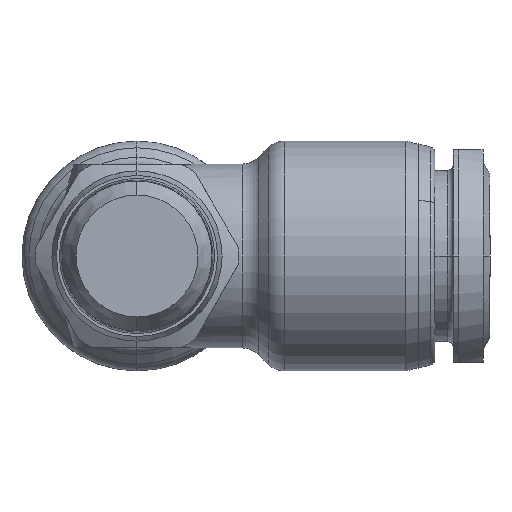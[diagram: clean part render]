
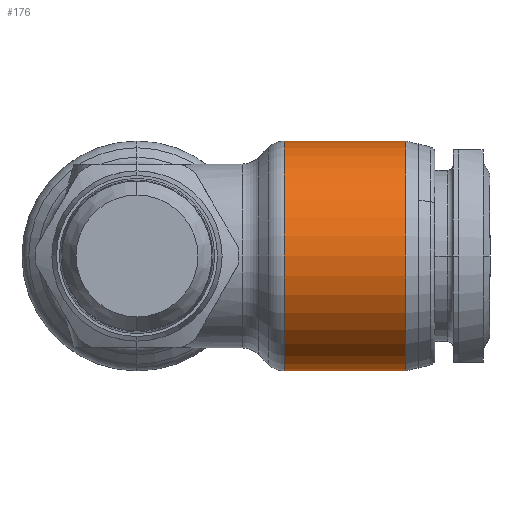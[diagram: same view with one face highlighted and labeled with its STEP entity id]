
A CAD part, left-side view. The second image highlights one B-rep face of the part: STEP entity #176.
In plain terms, the highlighted cylindrical face has radius 10 mm (diameter 20 mm), a partial arc.
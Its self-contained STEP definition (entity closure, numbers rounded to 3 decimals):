
#32 = EDGE_CURVE ( 'NONE', #963, #9283, #6335, .T. ) ;
#176 = ADVANCED_FACE ( 'NONE', ( #6373 ), #6381, .T. ) ;
#772 = ORIENTED_EDGE ( 'NONE', *, *, #32, .F. ) ;
#773 = ORIENTED_EDGE ( 'NONE', *, *, #2475, .T. ) ;
#774 = ORIENTED_EDGE ( 'NONE', *, *, #2401, .T. ) ;
#775 = ORIENTED_EDGE ( 'NONE', *, *, #2476, .F. ) ;
#963 = VERTEX_POINT ( 'NONE', #6122 ) ;
#965 = VERTEX_POINT ( 'NONE', #6117 ) ;
#2058 = EDGE_LOOP ( 'NONE', ( #772, #773, #774, #775 ) ) ;
#2401 = EDGE_CURVE ( 'NONE', #965, #9267, #6421, .T. ) ;
#2475 = EDGE_CURVE ( 'NONE', #963, #965, #6512, .T. ) ;
#2476 = EDGE_CURVE ( 'NONE', #9283, #9267, #6513, .T. ) ;
#2687 = AXIS2_PLACEMENT_3D ( 'NONE', #9089, #9090, #9093 ) ;
#2741 = AXIS2_PLACEMENT_3D ( 'NONE', #4029, #4030, #4031 ) ;
#2742 = AXIS2_PLACEMENT_3D ( 'NONE', #4032, #4033, #4034 ) ;
#3764 = DIRECTION ( 'NONE',  ( 0., 1., 0. ) ) ;
#3768 = CARTESIAN_POINT ( 'NONE',  ( 0., 0., 10. ) ) ;
#4029 = CARTESIAN_POINT ( 'NONE',  ( 0., -23.38, 0. ) ) ;
#4030 = DIRECTION ( 'NONE',  ( 0., 1., 0. ) ) ;
#4031 = DIRECTION ( 'NONE',  ( 0., 0., 1. ) ) ;
#4032 = CARTESIAN_POINT ( 'NONE',  ( 0., -12.827, 0. ) ) ;
#4033 = DIRECTION ( 'NONE',  ( 0., 1., 0. ) ) ;
#4034 = DIRECTION ( 'NONE',  ( 0., 0., 1. ) ) ;
#5659 = CARTESIAN_POINT ( 'NONE',  ( 0., 0., -10. ) ) ;
#5674 = DIRECTION ( 'NONE',  ( 0., 1., 0. ) ) ;
#6117 = CARTESIAN_POINT ( 'NONE',  ( 0., -23.38, 10. ) ) ;
#6122 = CARTESIAN_POINT ( 'NONE',  ( 0., -23.38, -10. ) ) ;
#6335 = LINE ( 'NONE', #5659, #6339 ) ;
#6339 = VECTOR ( 'NONE', #5674, 1000. ) ;
#6373 = FACE_OUTER_BOUND ( 'NONE', #2058, .T. ) ;
#6381 = CYLINDRICAL_SURFACE ( 'NONE', #2687, 10. ) ;
#6421 = LINE ( 'NONE', #3768, #6428 ) ;
#6428 = VECTOR ( 'NONE', #3764, 1000. ) ;
#6512 = CIRCLE ( 'NONE', #2741, 10. ) ;
#6513 = CIRCLE ( 'NONE', #2742, 10. ) ;
#8605 = CARTESIAN_POINT ( 'NONE',  ( 0., -12.827, -10. ) ) ;
#8607 = CARTESIAN_POINT ( 'NONE',  ( 0., -12.827, 10. ) ) ;
#9089 = CARTESIAN_POINT ( 'NONE',  ( 0., 0., 0. ) ) ;
#9090 = DIRECTION ( 'NONE',  ( 0., 1., 0. ) ) ;
#9093 = DIRECTION ( 'NONE',  ( 0., 0., 1. ) ) ;
#9267 = VERTEX_POINT ( 'NONE', #8607 ) ;
#9283 = VERTEX_POINT ( 'NONE', #8605 ) ;
